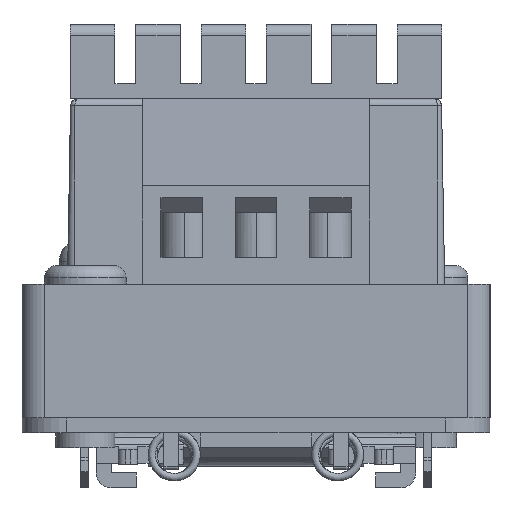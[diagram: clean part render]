
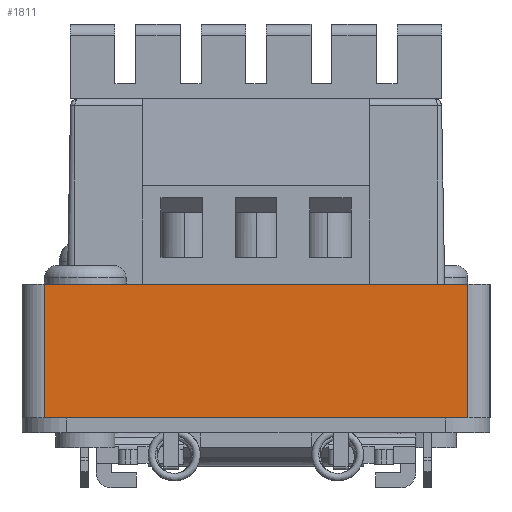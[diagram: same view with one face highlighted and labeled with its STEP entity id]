
A CAD part, left-side view. The second image highlights one B-rep face of the part: STEP entity #1811.
In plain terms, the highlighted planar face has unit normal (-1, 0, 0).
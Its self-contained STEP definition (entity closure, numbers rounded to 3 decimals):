
#1233=PLANE('',#12697);
#1811=ADVANCED_FACE('',(#2551),#1233,.F.);
#2551=FACE_OUTER_BOUND('',#3151,.T.);
#3151=EDGE_LOOP('',(#6667,#6668,#6669,#6670));
#3928=LINE('',#17013,#5087);
#3929=LINE('',#17016,#5088);
#3930=LINE('',#17018,#5089);
#3931=LINE('',#17020,#5090);
#5087=VECTOR('',#14033,1.);
#5088=VECTOR('',#14034,1.);
#5089=VECTOR('',#14035,1.);
#5090=VECTOR('',#14036,1.);
#6667=ORIENTED_EDGE('',*,*,#10615,.F.);
#6668=ORIENTED_EDGE('',*,*,#10616,.T.);
#6669=ORIENTED_EDGE('',*,*,#10617,.T.);
#6670=ORIENTED_EDGE('',*,*,#10618,.T.);
#9459=VERTEX_POINT('',#17014);
#9460=VERTEX_POINT('',#17015);
#9461=VERTEX_POINT('',#17017);
#9462=VERTEX_POINT('',#17019);
#10615=EDGE_CURVE('',#9459,#9460,#3928,.T.);
#10616=EDGE_CURVE('',#9459,#9461,#3929,.T.);
#10617=EDGE_CURVE('',#9461,#9462,#3930,.T.);
#10618=EDGE_CURVE('',#9462,#9460,#3931,.T.);
#12697=AXIS2_PLACEMENT_3D('',#17021,#14037,#14038);
#14033=DIRECTION('',(0.,-1.,0.));
#14034=DIRECTION('',(0.,0.,-1.));
#14035=DIRECTION('',(0.,-1.,0.));
#14036=DIRECTION('',(0.,0.,1.));
#14037=DIRECTION('',(1.,0.,0.));
#14038=DIRECTION('',(0.,-1.,0.));
#17013=CARTESIAN_POINT('',(-38.,-15.75,0.));
#17014=CARTESIAN_POINT('',(-38.,14.25,0.));
#17015=CARTESIAN_POINT('',(-38.,-14.25,0.));
#17016=CARTESIAN_POINT('',(-38.,14.25,0.));
#17017=CARTESIAN_POINT('',(-38.,14.25,-9.));
#17018=CARTESIAN_POINT('',(-38.,-15.75,-9.));
#17019=CARTESIAN_POINT('',(-38.,-14.25,-9.));
#17020=CARTESIAN_POINT('',(-38.,-14.25,0.));
#17021=CARTESIAN_POINT('',(-38.,-15.75,0.));
